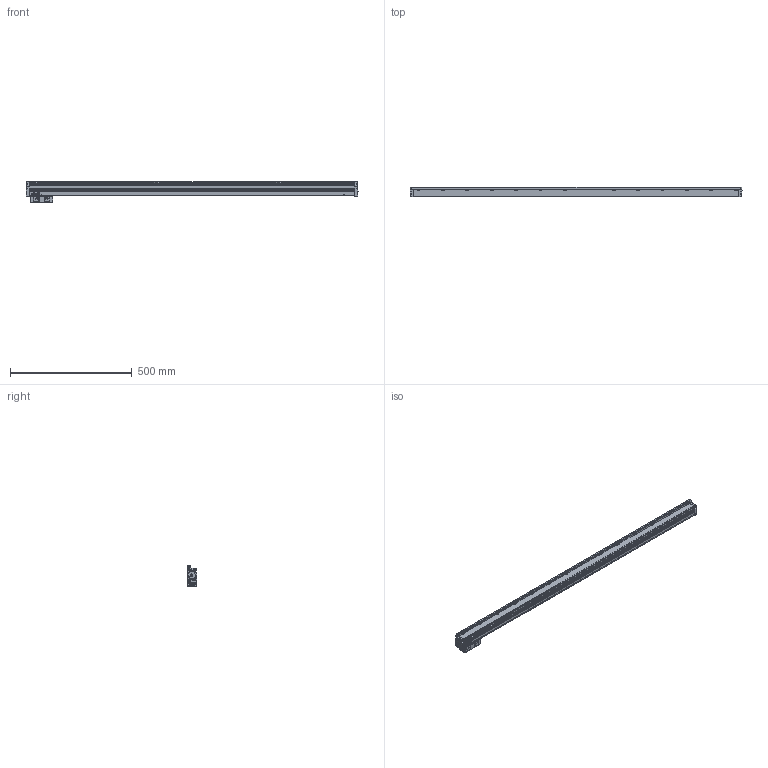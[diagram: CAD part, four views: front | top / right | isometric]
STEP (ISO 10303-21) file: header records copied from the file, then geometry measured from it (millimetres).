
FILE_DESCRIPTION(('Creo Elements/Direct Modeling STEP Export'),'2;1');
FILE_NAME('Regla G2-1240.stp','2015-10-01T 9:53:20',(''),(''),'Creo Elements/Direct Modeling STEP processor for AP214 (Solid Model)','Creo Elements/Direct Modeling 18.1G 27-Feb-2015 (C) Parametric Technology GmbH','');
FILE_SCHEMA(('AUTOMOTIVE_DESIGN { 1 0 10303 214 1 1 1 1 }'));
Length unit declared in the file: millimetre
Products named in the file (3): CABEZA; REGLA; Regla_G2_cm1240
Assembly tree (2 placements, depth 2):
  Regla_G2_cm1240
    REGLA
    CABEZA
Bounding box: 1361 x 38 x 85 mm (x, y, z)
Volume: 2085277.3 mm3; surface area: 413134.2 mm2
Topology: 2 solids, 7 shells, 1904 faces, 5569 edges, 3616 vertices
Faces by surface type: plane 846, cylinder 816, cone 172, torus 36, bspline 30, sphere 4
Entity records: 72689 total; most frequent: CARTESIAN_POINT 22872, ORIENTED_EDGE 11122, DIRECTION 9789, EDGE_CURVE 5561, VERTEX_POINT 3616, AXIS2_PLACEMENT_3D 3562, VECTOR 2665, LINE 2665
